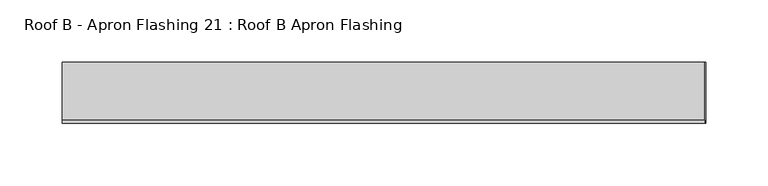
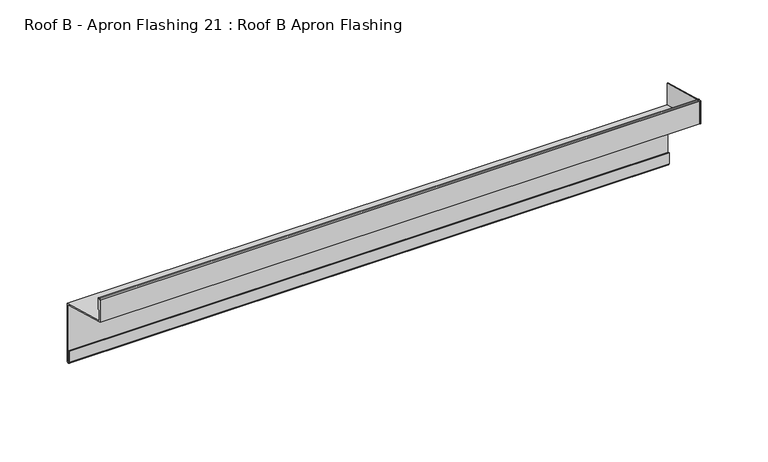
"""IFC4 building model written with IfcOpenShell, lengths in millimetres: proxy geometry, Roof B - Apron Flashing 21 : Roof B Apron Flashing."""

from ifc_helpers import new_model, si_unit, point, frame, frame_2d, origin, place, context, project, spatial, polyline, circle_curve, trimmed, segment, composite_curve, outline, extrude, source, transform, mapped, element, save


def roof_b_apron_flashing_21_roof_b_apron_flashing_e3cc5609(model_context):
    return source(origin(), model_context, "Body", "SweptSolid", [
        extrude(outline(polyline([(-23696.5446624, -973.6339834), (-23696.5446624, -953.130654), (-23647.7910321, -966.1941499), (-23647.7910321, -986.6974792), (-23696.5446624, -973.6339834)])), frame((9572.2186679, 0.0, 0.0), z_axis=(1.0, 0.0, 0.0), x_axis=(0.0, 1.0, 0.0)), (0.0, 0.0, 1.0), 0.8428395),
        extrude(outline(composite_curve([segment(polyline([(-23647.7910321, -985.662203), (-23647.7910321, -1037.6563748)]), True, "CONTINUOUS"), segment(trimmed(circle_curve(frame_2d((-23649.2910321, -1037.6563748)), 1.5), [point((-23647.7910321, -1037.6563748))], [point((-23650.7910321, -1037.6563748))], False, "CARTESIAN"), True, "CONTINUOUS"), segment(polyline([(-23650.7910321, -1037.6563748), (-23650.7910321, -1027.6933761), (-23649.7910321, -1027.6933761), (-23649.7910321, -1037.6563748)]), True, "CONTINUOUS"), segment(trimmed(circle_curve(frame_2d((-23649.2910321, -1037.6563748)), 0.5), [point((-23649.7910321, -1037.6563748))], [point((-23648.7910321, -1037.6563748))], True, "CARTESIAN"), True, "CONTINUOUS"), segment(polyline([(-23648.7910321, -1037.6563748), (-23648.7910321, -986.42953), (-23696.5446624, -973.6339834), (-23696.5446624, -953.3538686)]), True, "CONTINUOUS"), segment(trimmed(circle_curve(frame_2d((-23695.2946624, -953.3538686)), 1.25), [point((-23696.5446624, -953.3538686))], [point((-23694.0446624, -953.3538686))], False, "CARTESIAN"), True, "CONTINUOUS"), segment(polyline([(-23694.0446624, -953.3538686), (-23694.0446624, -962.6360034)]), True, "CONTINUOUS"), segment(trimmed(circle_curve(frame_2d((-23694.5446624, -962.6360034)), 0.5), [point((-23694.0446624, -962.6360034))], [point((-23695.0446624, -962.6360034))], False, "CARTESIAN"), True, "CONTINUOUS"), segment(polyline([(-23695.0446624, -962.6360034), (-23695.0446624, -953.3538686)]), True, "CONTINUOUS"), segment(trimmed(circle_curve(frame_2d((-23695.2946624, -953.3538686)), 0.25), [point((-23695.0446624, -953.3538686))], [point((-23695.5446624, -953.3538686))], True, "CARTESIAN"), True, "CONTINUOUS"), segment(polyline([(-23695.5446624, -953.3538686), (-23695.5446624, -972.8666564), (-23647.7910321, -985.662203)]), True, "CONTINUOUS")], self_intersect=False)), frame((9057.2186679, 0.0, 0.0), z_axis=(1.0, 0.0, 0.0), x_axis=(0.0, 1.0, 0.0)), (0.0, 0.0, 1.0), 515.0),
    ])


if __name__ == "__main__":
    model = new_model("IFC4")
    model_context = context("Model", 3, world=origin())
    ifc_project = project(units=[si_unit("LENGTHUNIT", "METRE", prefix="MILLI")], contexts=[model_context])
    site = spatial("IfcSite", under=ifc_project)
    building = spatial("IfcBuilding", under=site)
    placement = place(None, origin())
    roof_b_apron_flashing_21_roof_b_apron_flashing_shape = roof_b_apron_flashing_21_roof_b_apron_flashing_e3cc5609(model_context)
    element("IfcBuildingElementProxy", 1, Name="Roof B - Apron Flashing 21 : Roof B Apron Flashing", ObjectType="Roof B - Apron Flashing 21 : Roof B Apron Flashing", at=placement, inside=building, context=model_context, shape_type="MappedRepresentation", body=[
        mapped(roof_b_apron_flashing_21_roof_b_apron_flashing_shape, transform((0.0, 0.0, 0.0), x_axis=(1.0, 0.0, 0.0), y_axis=(0.0, 1.0, 0.0), z_axis=(0.0, 0.0, 1.0))),
    ])
    save(model, "model.ifc")
